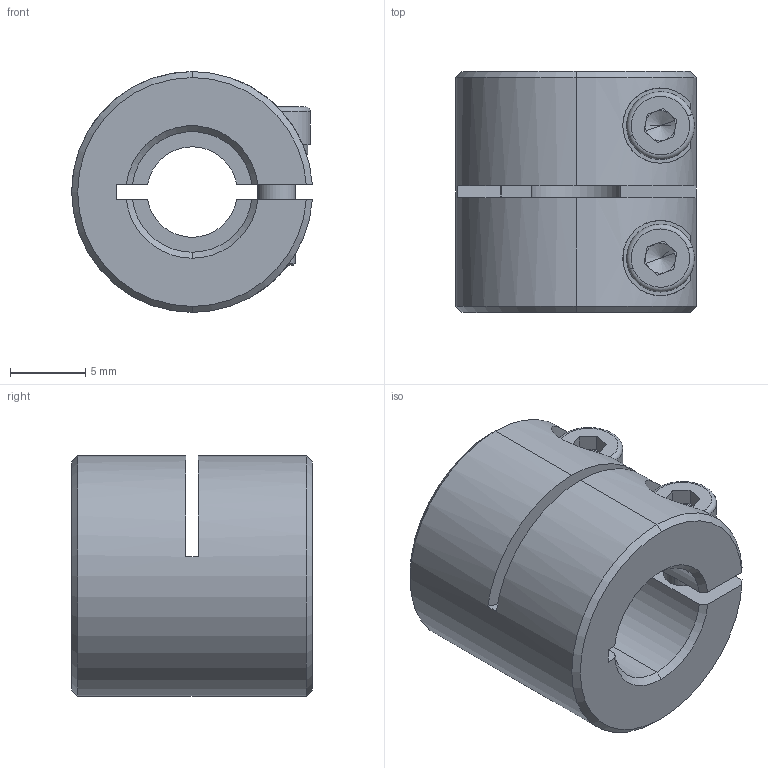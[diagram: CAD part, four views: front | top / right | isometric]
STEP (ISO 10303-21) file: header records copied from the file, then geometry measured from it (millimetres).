
FILE_DESCRIPTION (( 'STEP AP203' ), '1' );
FILE_NAME ('LL-B-D16L16-6-8.STEP', '2021-11-03T02:45:23', ( '' ), ( '' ), 'SwSTEP 2.0', 'SolidWorks 2018', '' );
FILE_SCHEMA (( 'CONFIG_CONTROL_DESIGN' ));
Length unit declared in the file: millimetre
Products named in the file (1): LL-B-D16L16-6-8
Bounding box: 15.98 x 16 x 16 mm (x, y, z)
Volume: 2408.7 mm3; surface area: 2018.3 mm2
Topology: 1 solids, 1 shells, 121 faces, 316 edges, 198 vertices
Faces by surface type: plane 52, cylinder 45, cone 20, torus 4
Entity records: 3977 total; most frequent: CARTESIAN_POINT 887, DIRECTION 656, ORIENTED_EDGE 624, EDGE_CURVE 312, AXIS2_PLACEMENT_3D 255, VERTEX_POINT 198, LINE 146, VECTOR 146
